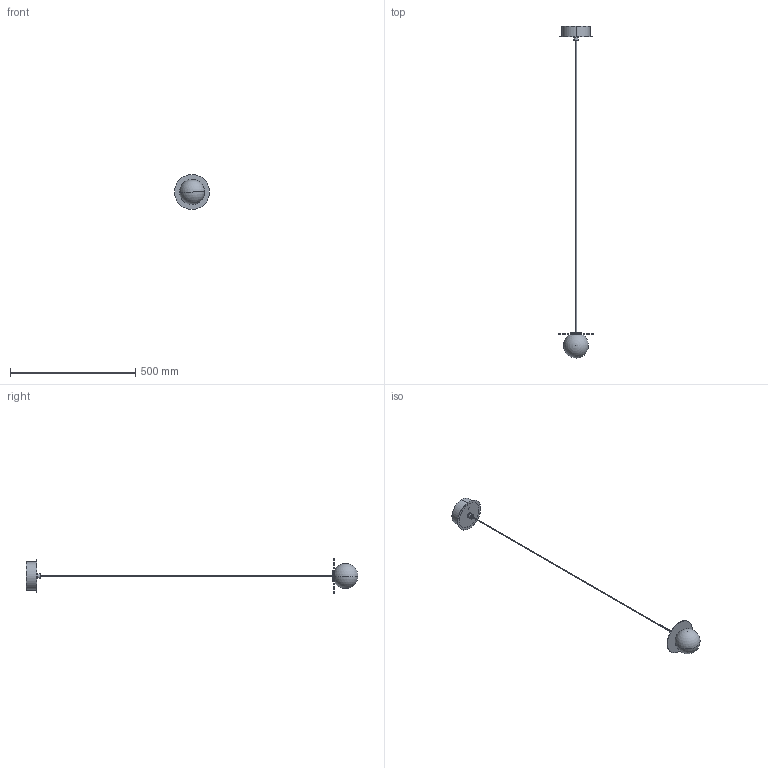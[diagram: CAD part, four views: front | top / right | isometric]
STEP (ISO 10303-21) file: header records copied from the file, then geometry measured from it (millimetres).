
FILE_DESCRIPTION (( 'STEP AP203' ), '1' );
FILE_NAME ('SPKI1001XXXXXXX-PER 3D.STEP', '2025-06-25T08:46:57', ( '' ), ( '' ), 'SwSTEP 2.0', 'SolidWorks 2024', '' );
FILE_SCHEMA (( 'CONFIG_CONTROL_DESIGN' ));
Length unit declared in the file: millimetre
Products named in the file (10): WSCM2C0201-0700-02_WSCM2C0201-0700-02; WSCM2F0011-0100-01_Default<按加工>; PENDENTE SPKI1001-00; SPKI1001XXXXXXX-PER 3D; WSCM2A0156-0700-01; WSVAXXX0100BC7XX00; CAVO NL2CN; WSCM2C0047-0100-00; WSASS-000000061-00; WSCM2A0157-0200-00
Assembly tree (9 placements, depth 3):
  SPKI1001XXXXXXX-PER 3D
    PENDENTE SPKI1001-00
      WSCM2C0201-0700-02_WSCM2C0201-0700-02
      WSVAXXX0100BC7XX00
      CAVO NL2CN
      WSCM2A0156-0700-01
    WSASS-000000061-00
      WSCM2F0011-0100-01_Default<按加工>
      WSCM2C0047-0100-00
      WSCM2A0157-0200-00
Bounding box: 140 x 1326.06 x 140 mm (x, y, z)
Volume: 207168.6 mm3; surface area: 183717.1 mm2
Topology: 8 solids, 8 shells, 129 faces, 288 edges, 176 vertices
Faces by surface type: cylinder 50, plane 39, cone 32, sphere 4, torus 4
Entity records: 4626 total; most frequent: DIRECTION 708, CARTESIAN_POINT 591, ORIENTED_EDGE 556, AXIS2_PLACEMENT_3D 287, EDGE_CURVE 278, VERTEX_POINT 170, EDGE_LOOP 156, CIRCLE 144
